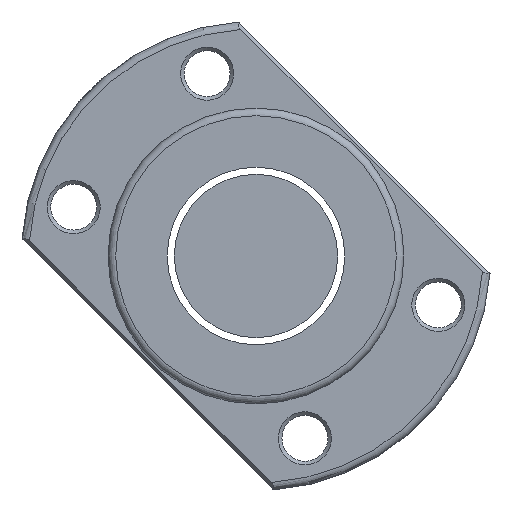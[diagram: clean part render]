
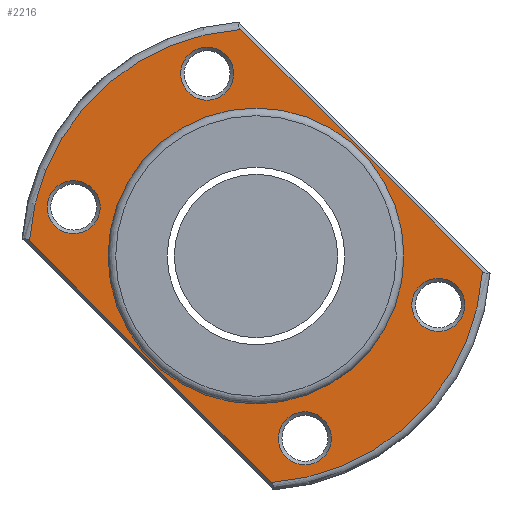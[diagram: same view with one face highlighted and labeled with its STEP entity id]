
A CAD part, left-side view. The second image highlights one B-rep face of the part: STEP entity #2216.
In plain terms, the highlighted planar face has unit normal (-1, 0, 0).
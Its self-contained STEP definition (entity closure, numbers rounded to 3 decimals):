
#4 = FACE_OUTER_BOUND ( 'NONE', #55, .T. ) ;
#40 = EDGE_LOOP ( 'NONE', ( #2166 ) ) ;
#55 = EDGE_LOOP ( 'NONE', ( #1029, #1694, #2289, #2891 ) ) ;
#59 = VERTEX_POINT ( 'NONE', #626 ) ;
#124 = DIRECTION ( 'NONE',  ( 0., 0., 1. ) ) ;
#136 = DIRECTION ( 'NONE',  ( 0., 0., 1. ) ) ;
#154 = CARTESIAN_POINT ( 'NONE',  ( -118., 0., 0. ) ) ;
#178 = CARTESIAN_POINT ( 'NONE',  ( -118., -9.576, -30.539 ) ) ;
#195 = AXIS2_PLACEMENT_3D ( 'NONE', #1736, #2663, #2208 ) ;
#221 = CARTESIAN_POINT ( 'NONE',  ( -118., 0., 0. ) ) ;
#231 = DIRECTION ( 'NONE',  ( 0., 0., 1. ) ) ;
#264 = EDGE_LOOP ( 'NONE', ( #2675 ) ) ;
#289 = FACE_BOUND ( 'NONE', #40, .T. ) ;
#421 = DIRECTION ( 'NONE',  ( 0., 0., -1. ) ) ;
#430 = CARTESIAN_POINT ( 'NONE',  ( -118., 35.739, 14.776 ) ) ;
#439 = EDGE_CURVE ( 'NONE', #1710, #59, #1021, .T. ) ;
#464 = AXIS2_PLACEMENT_3D ( 'NONE', #154, #602, #124 ) ;
#494 = DIRECTION ( 'NONE',  ( 1., 0., 0. ) ) ;
#545 = DIRECTION ( 'NONE',  ( 0., 0., 1. ) ) ;
#602 = DIRECTION ( 'NONE',  ( -1., 0., 0. ) ) ;
#621 = EDGE_CURVE ( 'NONE', #2499, #1710, #2200, .T. ) ;
#626 = CARTESIAN_POINT ( 'NONE',  ( -118., -44.401, -2.965 ) ) ;
#652 = CARTESIAN_POINT ( 'NONE',  ( -118., 44.401, 2.965 ) ) ;
#706 = EDGE_LOOP ( 'NONE', ( #2592 ) ) ;
#729 = DIRECTION ( 'NONE',  ( 1., 0., 0. ) ) ;
#841 = EDGE_CURVE ( 'NONE', #59, #1965, #2609, .T. ) ;
#879 = DIRECTION ( 'NONE',  ( 1., 0., 0. ) ) ;
#885 = VERTEX_POINT ( 'NONE', #1632 ) ;
#934 = EDGE_CURVE ( 'NONE', #2320, #2320, #1947, .T. ) ;
#936 = DIRECTION ( 'NONE',  ( -1., 0., 0. ) ) ;
#983 = FACE_BOUND ( 'NONE', #264, .T. ) ;
#990 = CARTESIAN_POINT ( 'NONE',  ( -118., -9.576, -35.739 ) ) ;
#1009 = CARTESIAN_POINT ( 'NONE',  ( -118., 2.282, 43.718 ) ) ;
#1021 = CIRCLE ( 'NONE', #2641, 44.5 ) ;
#1022 = ORIENTED_EDGE ( 'NONE', *, *, #1536, .T. ) ;
#1029 = ORIENTED_EDGE ( 'NONE', *, *, #841, .T. ) ;
#1149 = VECTOR ( 'NONE', #1503, 1000. ) ;
#1199 = EDGE_CURVE ( 'NONE', #885, #885, #2973, .T. ) ;
#1202 = AXIS2_PLACEMENT_3D ( 'NONE', #1366, #879, #1825 ) ;
#1207 = EDGE_LOOP ( 'NONE', ( #1951 ) ) ;
#1295 = EDGE_CURVE ( 'NONE', #1965, #2499, #2919, .T. ) ;
#1366 = CARTESIAN_POINT ( 'NONE',  ( -118., -35.739, -9.576 ) ) ;
#1383 = CARTESIAN_POINT ( 'NONE',  ( -118., 9.576, 40.939 ) ) ;
#1416 = CARTESIAN_POINT ( 'NONE',  ( -118., -2.965, -44.401 ) ) ;
#1503 = DIRECTION ( 'NONE',  ( 0., 0.707, 0.707 ) ) ;
#1536 = EDGE_CURVE ( 'NONE', #1618, #1618, #2449, .T. ) ;
#1569 = AXIS2_PLACEMENT_3D ( 'NONE', #1584, #2246, #136 ) ;
#1584 = CARTESIAN_POINT ( 'NONE',  ( -118., 9.576, 35.739 ) ) ;
#1618 = VERTEX_POINT ( 'NONE', #430 ) ;
#1632 = CARTESIAN_POINT ( 'NONE',  ( -118., -35.739, -4.376 ) ) ;
#1694 = ORIENTED_EDGE ( 'NONE', *, *, #1295, .T. ) ;
#1710 = VERTEX_POINT ( 'NONE', #1416 ) ;
#1736 = CARTESIAN_POINT ( 'NONE',  ( -118., 35.739, 9.576 ) ) ;
#1825 = DIRECTION ( 'NONE',  ( 0., 0., 1. ) ) ;
#1871 = CARTESIAN_POINT ( 'NONE',  ( -118., 46., 0. ) ) ;
#1901 = PLANE ( 'NONE',  #2615 ) ;
#1936 = AXIS2_PLACEMENT_3D ( 'NONE', #990, #494, #545 ) ;
#1947 = CIRCLE ( 'NONE', #1569, 5.2 ) ;
#1951 = ORIENTED_EDGE ( 'NONE', *, *, #1199, .T. ) ;
#1965 = VERTEX_POINT ( 'NONE', #2397 ) ;
#2008 = VERTEX_POINT ( 'NONE', #2025 ) ;
#2025 = CARTESIAN_POINT ( 'NONE',  ( -118., 0., -29. ) ) ;
#2081 = CIRCLE ( 'NONE', #2781, 29. ) ;
#2166 = ORIENTED_EDGE ( 'NONE', *, *, #934, .T. ) ;
#2200 = LINE ( 'NONE', #2905, #2429 ) ;
#2208 = DIRECTION ( 'NONE',  ( 0., 0., 1. ) ) ;
#2216 = ADVANCED_FACE ( 'NONE', ( #2336, #2398, #3028, #289, #983, #4 ), #1901, .T. ) ;
#2246 = DIRECTION ( 'NONE',  ( 1., 0., 0. ) ) ;
#2254 = VERTEX_POINT ( 'NONE', #178 ) ;
#2289 = ORIENTED_EDGE ( 'NONE', *, *, #621, .T. ) ;
#2320 = VERTEX_POINT ( 'NONE', #1383 ) ;
#2336 = FACE_BOUND ( 'NONE', #2657, .T. ) ;
#2337 = DIRECTION ( 'NONE',  ( -1., 0., 0. ) ) ;
#2397 = CARTESIAN_POINT ( 'NONE',  ( -118., 2.965, 44.401 ) ) ;
#2398 = FACE_BOUND ( 'NONE', #706, .T. ) ;
#2429 = VECTOR ( 'NONE', #2920, 1000. ) ;
#2449 = CIRCLE ( 'NONE', #195, 5.2 ) ;
#2472 = EDGE_CURVE ( 'NONE', #2254, #2254, #3007, .T. ) ;
#2499 = VERTEX_POINT ( 'NONE', #652 ) ;
#2587 = CARTESIAN_POINT ( 'NONE',  ( -118., 0., 0. ) ) ;
#2592 = ORIENTED_EDGE ( 'NONE', *, *, #2472, .T. ) ;
#2609 = LINE ( 'NONE', #1009, #1149 ) ;
#2611 = EDGE_CURVE ( 'NONE', #2008, #2008, #2081, .T. ) ;
#2615 = AXIS2_PLACEMENT_3D ( 'NONE', #1871, #936, #2797 ) ;
#2641 = AXIS2_PLACEMENT_3D ( 'NONE', #2587, #2337, #231 ) ;
#2657 = EDGE_LOOP ( 'NONE', ( #1022 ) ) ;
#2663 = DIRECTION ( 'NONE',  ( 1., 0., 0. ) ) ;
#2675 = ORIENTED_EDGE ( 'NONE', *, *, #2611, .T. ) ;
#2781 = AXIS2_PLACEMENT_3D ( 'NONE', #221, #729, #421 ) ;
#2797 = DIRECTION ( 'NONE',  ( 0., 0., 1. ) ) ;
#2891 = ORIENTED_EDGE ( 'NONE', *, *, #439, .T. ) ;
#2905 = CARTESIAN_POINT ( 'NONE',  ( -118., 43.718, 2.282 ) ) ;
#2919 = CIRCLE ( 'NONE', #464, 44.5 ) ;
#2920 = DIRECTION ( 'NONE',  ( 0., -0.707, -0.707 ) ) ;
#2973 = CIRCLE ( 'NONE', #1202, 5.2 ) ;
#3007 = CIRCLE ( 'NONE', #1936, 5.2 ) ;
#3028 = FACE_BOUND ( 'NONE', #1207, .T. ) ;
